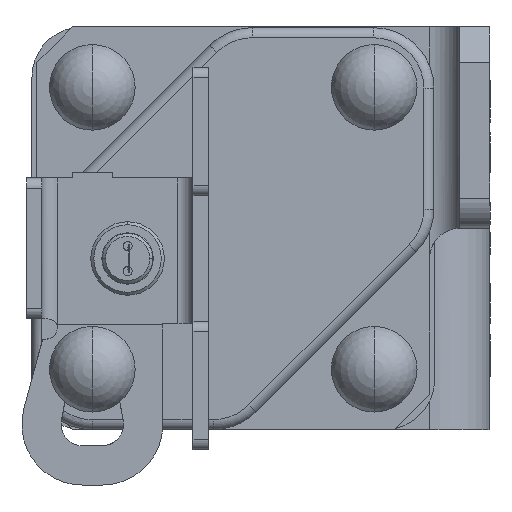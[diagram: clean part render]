
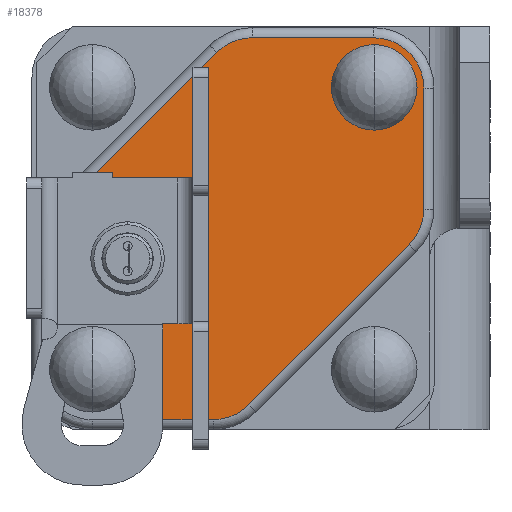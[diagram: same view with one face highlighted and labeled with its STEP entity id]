
A CAD part, front view. The second image highlights one B-rep face of the part: STEP entity #18378.
In plain terms, the highlighted planar face has unit normal (0, -1, 0).
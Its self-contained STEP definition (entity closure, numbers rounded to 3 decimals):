
#387 = DIRECTION ( 'NONE',  ( 0., 0., 1. ) ) ;
#824 = ORIENTED_EDGE ( 'NONE', *, *, #4531, .T. ) ;
#898 = CARTESIAN_POINT ( 'NONE',  ( -7., -49.5, -9.5 ) ) ;
#924 = CARTESIAN_POINT ( 'NONE',  ( -1.979, -49.5, -19. ) ) ;
#930 = VECTOR ( 'NONE', #10945, 1000. ) ;
#974 = LINE ( 'NONE', #4109, #1196 ) ;
#1196 = VECTOR ( 'NONE', #7196, 1000. ) ;
#1441 = AXIS2_PLACEMENT_3D ( 'NONE', #19150, #2660, #10394 ) ;
#1538 = VECTOR ( 'NONE', #17389, 1000. ) ;
#1688 = VERTEX_POINT ( 'NONE', #2945 ) ;
#1763 = ORIENTED_EDGE ( 'NONE', *, *, #3172, .T. ) ;
#1889 = CARTESIAN_POINT ( 'NONE',  ( -5.5, -49.5, 5. ) ) ;
#2402 = CARTESIAN_POINT ( 'NONE',  ( 18.931, -49.5, 13.931 ) ) ;
#2660 = DIRECTION ( 'NONE',  ( 0., 1., 0. ) ) ;
#2823 = VERTEX_POINT ( 'NONE', #14990 ) ;
#2945 = CARTESIAN_POINT ( 'NONE',  ( 13.931, -49.5, 18.931 ) ) ;
#2998 = VERTEX_POINT ( 'NONE', #13928 ) ;
#3095 = DIRECTION ( 'NONE',  ( 0., 0., -1. ) ) ;
#3172 = EDGE_CURVE ( 'NONE', #2823, #10799, #8797, .T. ) ;
#3284 = CARTESIAN_POINT ( 'NONE',  ( -7., -49.5, -19. ) ) ;
#3393 = DIRECTION ( 'NONE',  ( 0., 0., -1. ) ) ;
#3504 = CARTESIAN_POINT ( 'NONE',  ( -2.5, -49.5, -9.5 ) ) ;
#3526 = ORIENTED_EDGE ( 'NONE', *, *, #17678, .F. ) ;
#3575 = LINE ( 'NONE', #15446, #13670 ) ;
#3654 = LINE ( 'NONE', #898, #1538 ) ;
#3841 = VERTEX_POINT ( 'NONE', #12808 ) ;
#3883 = VECTOR ( 'NONE', #387, 1000. ) ;
#3909 = DIRECTION ( 'NONE',  ( 0., -1., 0. ) ) ;
#3978 = CARTESIAN_POINT ( 'NONE',  ( 14., -49.5, 18.25 ) ) ;
#4109 = CARTESIAN_POINT ( 'NONE',  ( -16., -49.5, 5.5 ) ) ;
#4396 = EDGE_CURVE ( 'NONE', #10799, #5789, #12473, .T. ) ;
#4507 = ORIENTED_EDGE ( 'NONE', *, *, #17797, .F. ) ;
#4531 = EDGE_CURVE ( 'NONE', #6217, #7032, #8020, .T. ) ;
#4612 = VECTOR ( 'NONE', #3393, 1000. ) ;
#4697 = FACE_BOUND ( 'NONE', #16300, .T. ) ;
#4747 = ORIENTED_EDGE ( 'NONE', *, *, #15298, .F. ) ;
#4761 = ORIENTED_EDGE ( 'NONE', *, *, #6665, .F. ) ;
#4767 = CARTESIAN_POINT ( 'NONE',  ( -1.979, -49.5, -14. ) ) ;
#4834 = DIRECTION ( 'NONE',  ( -0.707, 0., -0.707 ) ) ;
#5110 = CARTESIAN_POINT ( 'NONE',  ( 18.931, -49.5, 1.91 ) ) ;
#5360 = CARTESIAN_POINT ( 'NONE',  ( -12., -49.5, 5.5 ) ) ;
#5526 = VERTEX_POINT ( 'NONE', #16296 ) ;
#5552 = CARTESIAN_POINT ( 'NONE',  ( 13.931, -49.5, 1.91 ) ) ;
#5789 = VERTEX_POINT ( 'NONE', #5110 ) ;
#5806 = LINE ( 'NONE', #7743, #3883 ) ;
#6123 = CARTESIAN_POINT ( 'NONE',  ( -1.979, -49.5, -19. ) ) ;
#6166 = CARTESIAN_POINT ( 'NONE',  ( -1.626, -49.5, 17.466 ) ) ;
#6190 = DIRECTION ( 'NONE',  ( 1., 0., 0. ) ) ;
#6217 = VERTEX_POINT ( 'NONE', #3978 ) ;
#6369 = VECTOR ( 'NONE', #12837, 1000. ) ;
#6665 = EDGE_CURVE ( 'NONE', #17683, #5526, #14065, .T. ) ;
#6799 = CIRCLE ( 'NONE', #11857, 5. ) ;
#7032 = VERTEX_POINT ( 'NONE', #14364 ) ;
#7181 = DIRECTION ( 'NONE',  ( 0.707, 0., 0.707 ) ) ;
#7196 = DIRECTION ( 'NONE',  ( -1., 0., 0. ) ) ;
#7373 = EDGE_CURVE ( 'NONE', #9410, #16678, #9336, .T. ) ;
#7496 = ORIENTED_EDGE ( 'NONE', *, *, #12197, .T. ) ;
#7672 = DIRECTION ( 'NONE',  ( 0., -1., 0. ) ) ;
#7734 = ORIENTED_EDGE ( 'NONE', *, *, #4396, .T. ) ;
#7743 = CARTESIAN_POINT ( 'NONE',  ( -12., -49.5, 5.5 ) ) ;
#7811 = AXIS2_PLACEMENT_3D ( 'NONE', #8795, #10297, #13255 ) ;
#7939 = ORIENTED_EDGE ( 'NONE', *, *, #8520, .T. ) ;
#8020 = CIRCLE ( 'NONE', #1441, 4.25 ) ;
#8373 = EDGE_CURVE ( 'NONE', #2998, #9410, #12102, .T. ) ;
#8520 = EDGE_CURVE ( 'NONE', #18498, #13586, #13285, .T. ) ;
#8672 = ORIENTED_EDGE ( 'NONE', *, *, #7373, .T. ) ;
#8795 = CARTESIAN_POINT ( 'NONE',  ( 14., -49.5, 14. ) ) ;
#8797 = LINE ( 'NONE', #17557, #12530 ) ;
#8863 = DIRECTION ( 'NONE',  ( -0.707, 0., 0.707 ) ) ;
#9201 = EDGE_LOOP ( 'NONE', ( #4761, #16994, #3526, #4747, #7939, #13101, #1763, #7734, #12972, #7496, #10519, #11555, #8672, #4507, #9501 ) ) ;
#9288 = DIRECTION ( 'NONE',  ( 0., -1., 0. ) ) ;
#9336 = LINE ( 'NONE', #13753, #17759 ) ;
#9410 = VERTEX_POINT ( 'NONE', #6166 ) ;
#9501 = ORIENTED_EDGE ( 'NONE', *, *, #14651, .F. ) ;
#9840 = VERTEX_POINT ( 'NONE', #19264 ) ;
#10014 = VECTOR ( 'NONE', #6190, 1000. ) ;
#10297 = DIRECTION ( 'NONE',  ( 0., 1., 0. ) ) ;
#10394 = DIRECTION ( 'NONE',  ( 0., 0., 1. ) ) ;
#10519 = ORIENTED_EDGE ( 'NONE', *, *, #16728, .T. ) ;
#10585 = LINE ( 'NONE', #3504, #13193 ) ;
#10799 = VERTEX_POINT ( 'NONE', #19285 ) ;
#10945 = DIRECTION ( 'NONE',  ( -1., 0., 0. ) ) ;
#11044 = DIRECTION ( 'NONE',  ( 1., 0., 0. ) ) ;
#11555 = ORIENTED_EDGE ( 'NONE', *, *, #8373, .T. ) ;
#11857 = AXIS2_PLACEMENT_3D ( 'NONE', #4767, #9288, #13628 ) ;
#12048 = PLANE ( 'NONE',  #15365 ) ;
#12102 = CIRCLE ( 'NONE', #13578, 5. ) ;
#12197 = EDGE_CURVE ( 'NONE', #17098, #1688, #14597, .T. ) ;
#12237 = DIRECTION ( 'NONE',  ( -0.707, 0., 0.707 ) ) ;
#12455 = EDGE_CURVE ( 'NONE', #5789, #17098, #12925, .T. ) ;
#12473 = CIRCLE ( 'NONE', #13520, 5. ) ;
#12530 = VECTOR ( 'NONE', #7181, 1000. ) ;
#12808 = CARTESIAN_POINT ( 'NONE',  ( -7., -49.5, -9.5 ) ) ;
#12837 = DIRECTION ( 'NONE',  ( 0., 0., 1. ) ) ;
#12925 = LINE ( 'NONE', #14283, #6369 ) ;
#12955 = DIRECTION ( 'NONE',  ( -0.707, 0., 0.707 ) ) ;
#12972 = ORIENTED_EDGE ( 'NONE', *, *, #12455, .T. ) ;
#13101 = ORIENTED_EDGE ( 'NONE', *, *, #18963, .T. ) ;
#13193 = VECTOR ( 'NONE', #11044, 1000. ) ;
#13255 = DIRECTION ( 'NONE',  ( 0., 0., 1. ) ) ;
#13285 = LINE ( 'NONE', #6123, #10014 ) ;
#13516 = AXIS2_PLACEMENT_3D ( 'NONE', #16617, #17932, #12237 ) ;
#13520 = AXIS2_PLACEMENT_3D ( 'NONE', #5552, #3909, #12955 ) ;
#13578 = AXIS2_PLACEMENT_3D ( 'NONE', #16320, #16502, #8863 ) ;
#13586 = VERTEX_POINT ( 'NONE', #924 ) ;
#13628 = DIRECTION ( 'NONE',  ( -0.707, 0., 0.707 ) ) ;
#13648 = CARTESIAN_POINT ( 'NONE',  ( -12., -49.5, 5. ) ) ;
#13670 = VECTOR ( 'NONE', #13822, 1000. ) ;
#13753 = CARTESIAN_POINT ( 'NONE',  ( -17.536, -49.5, 1.556 ) ) ;
#13822 = DIRECTION ( 'NONE',  ( -1., 0., 0. ) ) ;
#13928 = CARTESIAN_POINT ( 'NONE',  ( 1.91, -49.5, 18.931 ) ) ;
#13943 = EDGE_CURVE ( 'NONE', #17683, #9840, #14712, .T. ) ;
#14065 = LINE ( 'NONE', #13648, #930 ) ;
#14283 = CARTESIAN_POINT ( 'NONE',  ( 18.931, -49.5, 13.931 ) ) ;
#14364 = CARTESIAN_POINT ( 'NONE',  ( 14., -49.5, 9.75 ) ) ;
#14597 = CIRCLE ( 'NONE', #13516, 5. ) ;
#14651 = EDGE_CURVE ( 'NONE', #5526, #16831, #5806, .T. ) ;
#14712 = LINE ( 'NONE', #1889, #4612 ) ;
#14990 = CARTESIAN_POINT ( 'NONE',  ( 1.556, -49.5, -17.536 ) ) ;
#15298 = EDGE_CURVE ( 'NONE', #18498, #3841, #3654, .T. ) ;
#15365 = AXIS2_PLACEMENT_3D ( 'NONE', #16196, #7672, #3095 ) ;
#15446 = CARTESIAN_POINT ( 'NONE',  ( 1.91, -49.5, 18.931 ) ) ;
#16018 = CARTESIAN_POINT ( 'NONE',  ( -5.5, -49.5, 5. ) ) ;
#16030 = CIRCLE ( 'NONE', #7811, 4.25 ) ;
#16196 = CARTESIAN_POINT ( 'NONE',  ( 13.931, -49.5, 13.931 ) ) ;
#16296 = CARTESIAN_POINT ( 'NONE',  ( -12., -49.5, 5. ) ) ;
#16300 = EDGE_LOOP ( 'NONE', ( #18540, #824 ) ) ;
#16320 = CARTESIAN_POINT ( 'NONE',  ( 1.91, -49.5, 13.931 ) ) ;
#16444 = EDGE_CURVE ( 'NONE', #7032, #6217, #16030, .T. ) ;
#16502 = DIRECTION ( 'NONE',  ( 0., -1., 0. ) ) ;
#16617 = CARTESIAN_POINT ( 'NONE',  ( 13.931, -49.5, 13.931 ) ) ;
#16678 = VERTEX_POINT ( 'NONE', #16995 ) ;
#16728 = EDGE_CURVE ( 'NONE', #1688, #2998, #3575, .T. ) ;
#16831 = VERTEX_POINT ( 'NONE', #5360 ) ;
#16994 = ORIENTED_EDGE ( 'NONE', *, *, #13943, .T. ) ;
#16995 = CARTESIAN_POINT ( 'NONE',  ( -13.592, -49.5, 5.5 ) ) ;
#17098 = VERTEX_POINT ( 'NONE', #2402 ) ;
#17389 = DIRECTION ( 'NONE',  ( 0., 0., 1. ) ) ;
#17557 = CARTESIAN_POINT ( 'NONE',  ( 17.466, -49.5, -1.626 ) ) ;
#17678 = EDGE_CURVE ( 'NONE', #3841, #9840, #10585, .T. ) ;
#17683 = VERTEX_POINT ( 'NONE', #16018 ) ;
#17759 = VECTOR ( 'NONE', #4834, 1000. ) ;
#17797 = EDGE_CURVE ( 'NONE', #16831, #16678, #974, .T. ) ;
#17932 = DIRECTION ( 'NONE',  ( 0., -1., 0. ) ) ;
#18378 = ADVANCED_FACE ( 'NONE', ( #18982, #4697 ), #12048, .T. ) ;
#18498 = VERTEX_POINT ( 'NONE', #3284 ) ;
#18540 = ORIENTED_EDGE ( 'NONE', *, *, #16444, .T. ) ;
#18963 = EDGE_CURVE ( 'NONE', #13586, #2823, #6799, .T. ) ;
#18982 = FACE_OUTER_BOUND ( 'NONE', #9201, .T. ) ;
#19150 = CARTESIAN_POINT ( 'NONE',  ( 14., -49.5, 14. ) ) ;
#19264 = CARTESIAN_POINT ( 'NONE',  ( -5.5, -49.5, -9.5 ) ) ;
#19285 = CARTESIAN_POINT ( 'NONE',  ( 17.466, -49.5, -1.626 ) ) ;
